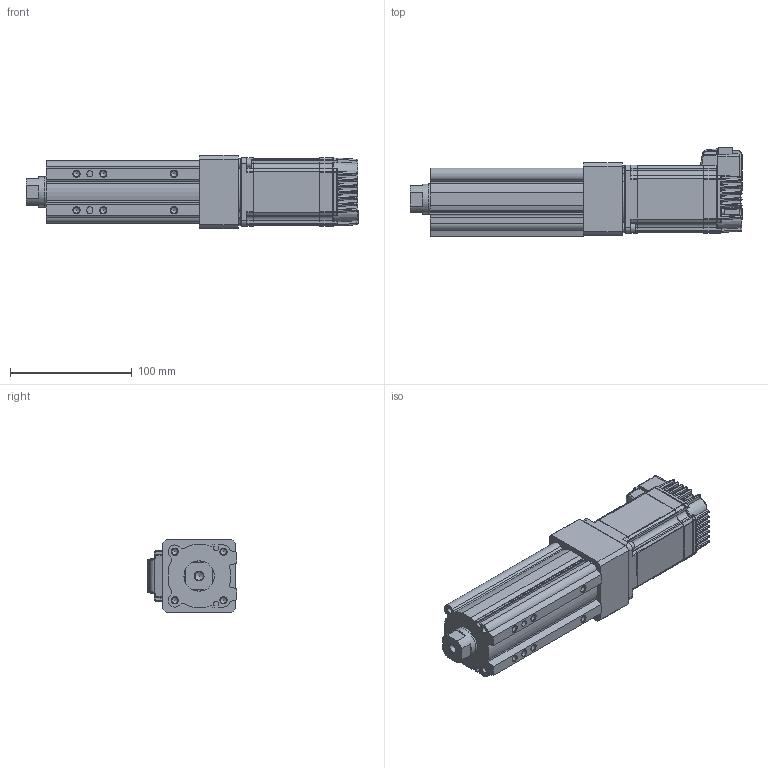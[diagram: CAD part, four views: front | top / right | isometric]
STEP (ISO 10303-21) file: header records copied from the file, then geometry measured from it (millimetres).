
FILE_DESCRIPTION (( 'STEP AP214' ), '1' );
FILE_NAME ('LEY3(+)-32DNM1□-30-23L.STEP', '2023-04-06T07:53:06', ( '' ), ( '' ), 'SwSTEP 2.0', 'SolidWorks 2019', '' );
FILE_SCHEMA (( 'AUTOMOTIVE_DESIGN' ));
Length unit declared in the file: millimetre
Products named in the file (5): LEY3(+)-32NM1?_BODY_30; LEY3(+)-32NM1?_ROD_30; LEY3(+)-32DNM1_MOTOR Flange; CM3(+)-23L50A_2-M4_01; LEY3(+)-32DNM1□-30-23L
Assembly tree (4 placements, depth 2):
  LEY3(+)-32DNM1□-30-23L
    LEY3(+)-32NM1?_BODY_30
    LEY3(+)-32NM1?_ROD_30
    LEY3(+)-32DNM1_MOTOR Flange
    CM3(+)-23L50A_2-M4_01
Bounding box: 272.8 x 73.75 x 60 mm (x, y, z)
Volume: 687183.9 mm3; surface area: 111853.4 mm2
Topology: 4 solids, 13 shells, 1439 faces, 3713 edges, 2295 vertices
Faces by surface type: plane 668, cylinder 432, bspline 133, cone 101, torus 58, sphere 47
Full cylindrical faces by diameter (mm): 2.5 x4, 3 x2, 3.2 x4, 4.2 x1, 4.5 x7, 4.9 x10, 5 x1, 6.2 x4, 6.35 x1, 6.8 x1, 7 x2, 8 x2, 24.8 x1, 25 x2, 32 x2, 38.1 x1
Entity records: 49056 total; most frequent: CARTESIAN_POINT 12638, ORIENTED_EDGE 7102, DIRECTION 6555, EDGE_CURVE 3551, VERTEX_POINT 2267, AXIS2_PLACEMENT_3D 2230, LINE 2095, VECTOR 2095
